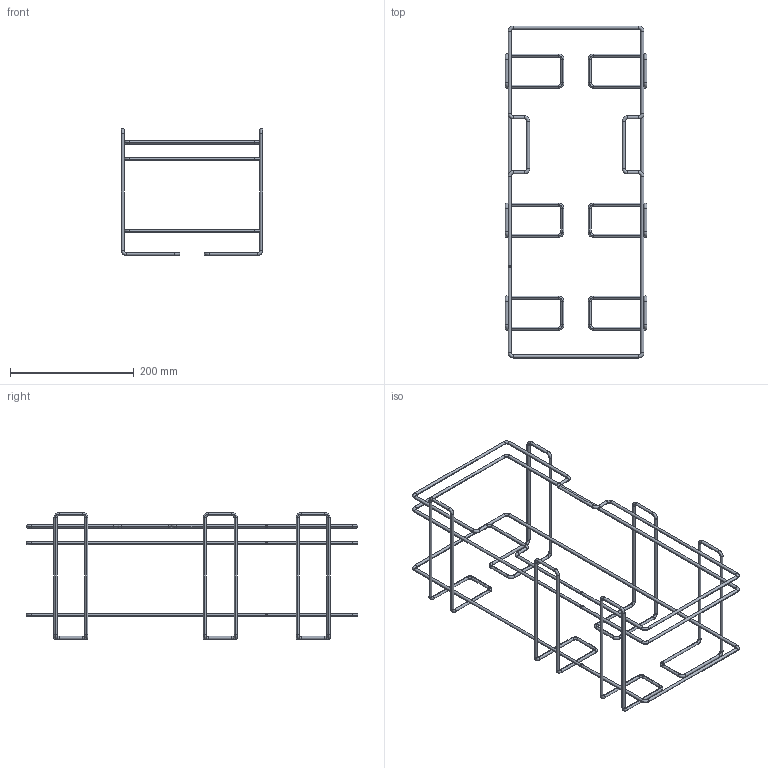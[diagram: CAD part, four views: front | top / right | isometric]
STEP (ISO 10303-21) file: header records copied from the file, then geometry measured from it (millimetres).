
FILE_DESCRIPTION(('CATIA V5 STEP Exchange'),'2;1');
FILE_NAME('D:\OLD\HCS Files\HCS STP\Waste Bin Holder\926998500.stp','2023-05-08T08:05:19+00:00',('none'),('none'),'CATIA Version 5 Release 21 GA (IN-10)','CATIA V5 STEP AP203','none');
FILE_SCHEMA(('CONFIG_CONTROL_DESIGN'));
Length unit declared in the file: millimetre
Products named in the file (1): Part2
Bounding box: 229 x 536 x 205 mm (x, y, z)
Volume: 167427.4 mm3; surface area: 134029.4 mm2
Topology: 9 solids, 9 shells, 248 faces, 506 edges, 266 vertices
Faces by surface type: cylinder 118, torus 112, cone 12, plane 6
Entity records: 5443 total; most frequent: ORIENTED_EDGE 988, CARTESIAN_POINT 897, DIRECTION 734, EDGE_CURVE 494, AXIS2_PLACEMENT_3D 480, CIRCLE 365, VERTEX_POINT 252, ADVANCED_FACE 248
